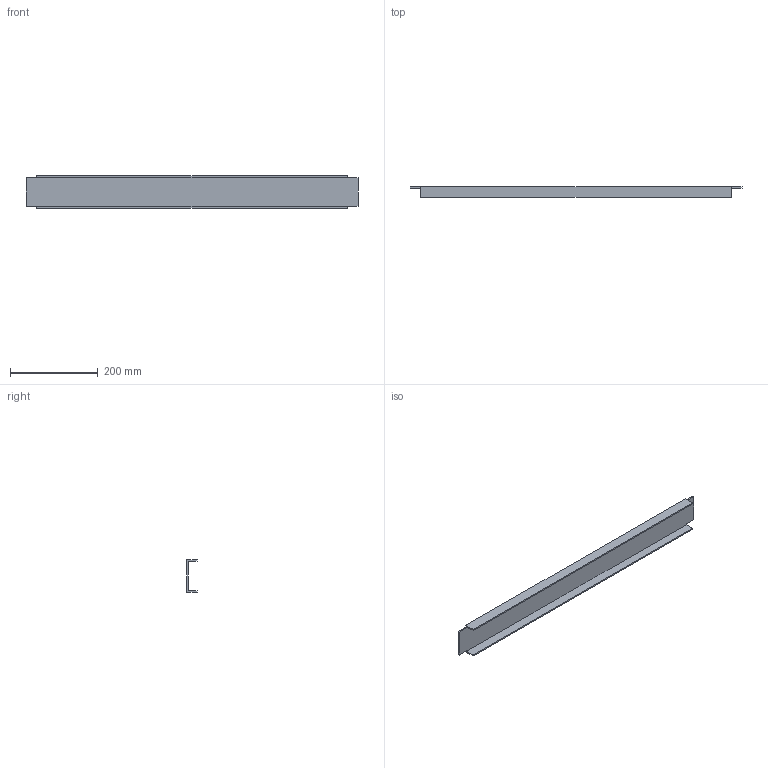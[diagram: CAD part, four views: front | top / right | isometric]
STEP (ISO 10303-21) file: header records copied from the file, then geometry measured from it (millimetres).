
FILE_DESCRIPTION( ( 'STEP AP214' ), '1' );
FILE_NAME( 'p:/temp/worker_128/temp/exporttempdir_5116_3_hQVpR/format_0/CB800(0).stp', '2021-03-15T14:13:23', ( 'License CC BY-ND 4.0' ), ( 'CADENAS' ), ' ', 'PARTsolutions', ' ' );
FILE_SCHEMA( ( 'AUTOMOTIVE_DESIGN { 1 0 10303 214 1 1 1 1 }' ) );
Length unit declared in the file: millimetre
Products named in the file (1): _CB800(0)
Bounding box: 757 x 23 x 74 mm (x, y, z)
Volume: 251394 mm3; surface area: 172822 mm2
Topology: 1 solids, 1 shells, 18 faces, 48 edges, 32 vertices
Faces by surface type: plane 18
Entity records: 712 total; most frequent: CARTESIAN_POINT 99, ORIENTED_EDGE 96, DIRECTION 86, EDGE_CURVE 48, LINE 48, VECTOR 48, VERTEX_POINT 32, AXIS2_PLACEMENT_3D 19
